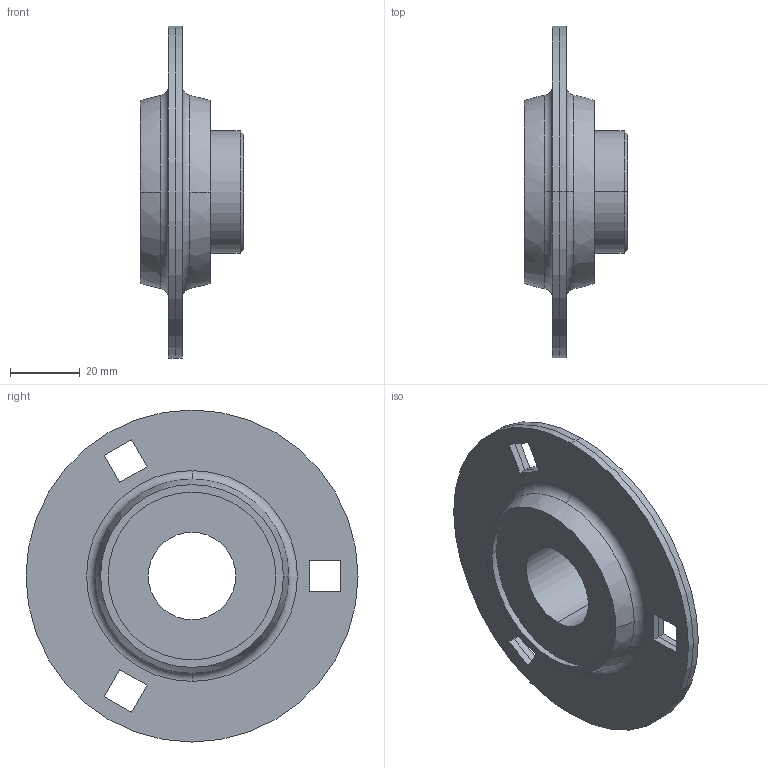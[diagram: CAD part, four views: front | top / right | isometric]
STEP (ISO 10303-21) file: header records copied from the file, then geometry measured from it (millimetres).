
FILE_DESCRIPTION (( 'STEP AP203' ), '1' );
FILE_NAME ('SBPF 205.STEP', '2018-03-12T09:36:01', ( '' ), ( '' ), 'SwSTEP 2.0', 'SolidWorks 2016', '' );
FILE_SCHEMA (( 'CONFIG_CONTROL_DESIGN' ));
Length unit declared in the file: millimetre
Products named in the file (1): SBPF 205
Bounding box: 29.5 x 95 x 95 mm (x, y, z)
Volume: 53729.9 mm3; surface area: 35183.8 mm2
Topology: 3 solids, 3 shells, 61 faces, 163 edges, 105 vertices
Faces by surface type: plane 33, sphere 10, torus 8, cylinder 8, cone 2
Entity records: 1933 total; most frequent: DIRECTION 342, CARTESIAN_POINT 310, ORIENTED_EDGE 300, EDGE_CURVE 150, AXIS2_PLACEMENT_3D 130, VERTEX_POINT 98, VECTOR 82, LINE 82
